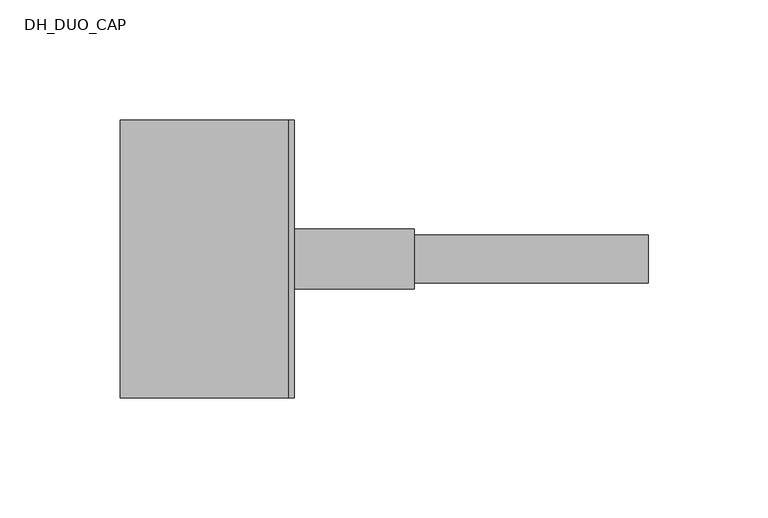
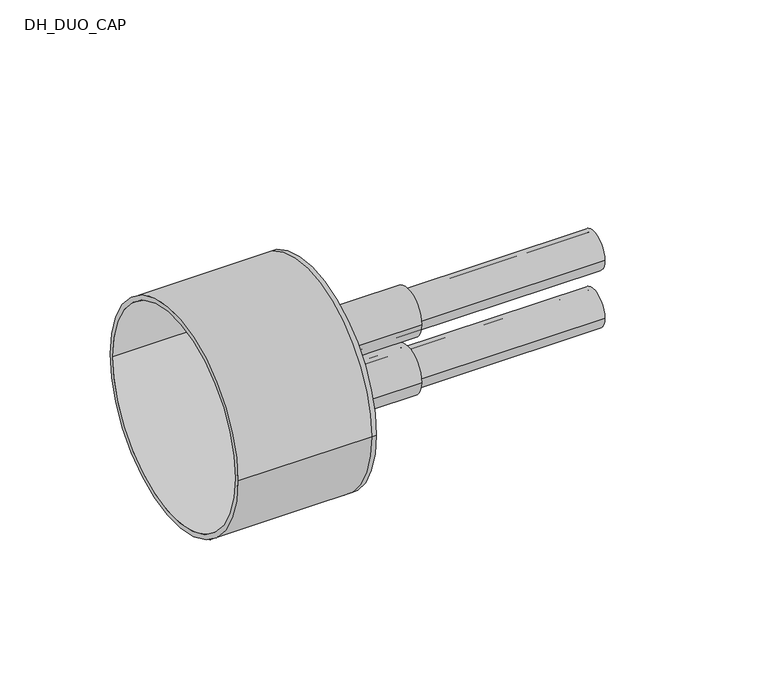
"""IFC4 building model written with IfcOpenShell, lengths in millimetres: pipe fitting geometry, DH_DUO_CAP : RAUTHERMEX DUO + 11 Heating - Rubber Cap."""

from ifc_helpers import new_model, si_unit, point, frame, frame_2d, origin, place, context, project, spatial, polyline, circle_curve, trimmed, segment, composite_curve, outline, extrude, source, transform, mapped, element, save
from ifc_brep_helpers import plane_surface, cylinder_surface, revolved_surface, advanced_brep


def dh_duo_cap_57db8bb2(model_context):
    return source(origin(), model_context, "Body", "SolidModel", [
        extrude(outline(composite_curve([segment(trimmed(circle_curve(frame_2d((0.0, -16.0)), 10.0), [point((-10.0, -16.0))], [point((10.0, -16.0))], False, "CARTESIAN"), True, "CONTINUOUS"), segment(trimmed(circle_curve(frame_2d((0.0, -16.0)), 10.0), [point((10.0, -16.0))], [point((-10.0, -16.0))], False, "CARTESIAN"), True, "CONTINUOUS")], self_intersect=False), holes=[composite_curve([segment(trimmed(circle_curve(frame_2d((0.0, -16.0)), 8.1), [point((-8.1, -16.0))], [point((8.1, -16.0))], True, "CARTESIAN"), True, "CONTINUOUS"), segment(trimmed(circle_curve(frame_2d((0.0, -16.0)), 8.1), [point((8.1, -16.0))], [point((-8.1, -16.0))], True, "CARTESIAN"), True, "CONTINUOUS")], self_intersect=False)]), frame((0.0, 0.0, 0.0), z_axis=(1.0, 0.0, 0.0), x_axis=(0.0, 1.0, 0.0)), (0.0, 0.0, 1.0), 150.0),
        extrude(outline(composite_curve([segment(trimmed(circle_curve(frame_2d((0.0, 16.0)), 10.0), [point((-10.0, 16.0))], [point((10.0, 16.0))], False, "CARTESIAN"), True, "CONTINUOUS"), segment(trimmed(circle_curve(frame_2d((0.0, 16.0)), 10.0), [point((10.0, 16.0))], [point((-10.0, 16.0))], False, "CARTESIAN"), True, "CONTINUOUS")], self_intersect=False), holes=[composite_curve([segment(trimmed(circle_curve(frame_2d((0.0, 16.0)), 8.1), [point((-8.1, 16.0))], [point((8.1, 16.0))], True, "CARTESIAN"), True, "CONTINUOUS"), segment(trimmed(circle_curve(frame_2d((0.0, 16.0)), 8.1), [point((8.1, 16.0))], [point((-8.1, 16.0))], True, "CARTESIAN"), True, "CONTINUOUS")], self_intersect=False)]), frame((0.0, 0.0, 0.0), z_axis=(1.0, 0.0, 0.0), x_axis=(0.0, 1.0, 0.0)), (0.0, 0.0, 1.0), 150.0),
        advanced_brep(
        [(-70.0, -58.0, 0.0), (-70.0, 58.0, 0.0), (-70.0, -55.5, 0.0), (-70.0, 55.5, 0.0), (0.0, -55.5, 0.0), (0.0, 55.5, 0.0), (0.0, -58.0, 0.0), (0.0, 58.0, 0.0), (0.0, 10.0, 16.0), (0.0, -10.0, 16.0), (0.0, 10.0, -16.0), (0.0, -10.0, -16.0), (2.5, -58.0, 0.0), (2.5, 58.0, 0.0), (2.5, -10.0, 16.0), (2.5, 10.0, 16.0), (2.5, -10.0, -16.0), (2.5, 10.0, -16.0)],
        [
            (0, 1, circle_curve(frame((-70.0, 0.0, 0.0), z_axis=(-1.0, 0.0, 0.0), x_axis=(0.0, 1.0, 0.0)), 58.0)),
            (1, 0, circle_curve(frame((-70.0, 0.0, 0.0), z_axis=(-1.0, 0.0, 0.0), x_axis=(0.0, 1.0, 0.0)), 58.0)),
            (2, 3, circle_curve(frame((-70.0, 0.0, 0.0), z_axis=(1.0, 0.0, 0.0), x_axis=(0.0, 1.0, 0.0)), 55.5)),
            (3, 2, circle_curve(frame((-70.0, 0.0, 0.0), z_axis=(1.0, 0.0, 0.0), x_axis=(0.0, 1.0, 0.0)), 55.5)),
            (2, 4),
            (4, 5, circle_curve(frame((0.0, 0.0, 0.0), z_axis=(1.0, 0.0, 0.0), x_axis=(0.0, 1.0, 0.0)), 55.5)),
            (5, 3),
            (5, 4, circle_curve(frame((0.0, 0.0, 0.0), z_axis=(1.0, 0.0, 0.0), x_axis=(0.0, 1.0, 0.0)), 55.5)),
            (0, 6),
            (6, 7, circle_curve(frame((0.0, 0.0, 0.0), z_axis=(-1.0, 0.0, 0.0), x_axis=(0.0, 1.0, 0.0)), 58.0)),
            (7, 1),
            (7, 6, circle_curve(frame((0.0, 0.0, 0.0), z_axis=(-1.0, 0.0, 0.0), x_axis=(0.0, 1.0, 0.0)), 58.0)),
            (8, 9, circle_curve(frame((0.0, 0.0, 16.0), z_axis=(1.0, 0.0, 0.0), x_axis=(0.0, 1.0, 0.0)), 10.0)),
            (9, 8, circle_curve(frame((0.0, 0.0, 16.0), z_axis=(1.0, 0.0, 0.0), x_axis=(0.0, 1.0, 0.0)), 10.0)),
            (10, 11, circle_curve(frame((0.0, 0.0, -16.0), z_axis=(1.0, 0.0, 0.0), x_axis=(0.0, 1.0, 0.0)), 10.0)),
            (11, 10, circle_curve(frame((0.0, 0.0, -16.0), z_axis=(1.0, 0.0, 0.0), x_axis=(0.0, 1.0, 0.0)), 10.0)),
            (12, 13, circle_curve(frame((2.5, 0.0, 0.0), z_axis=(1.0, 0.0, 0.0), x_axis=(0.0, 1.0, 0.0)), 58.0)),
            (13, 12, circle_curve(frame((2.5, 0.0, 0.0), z_axis=(1.0, 0.0, 0.0), x_axis=(0.0, 1.0, 0.0)), 58.0)),
            (14, 15, circle_curve(frame((2.5, 0.0, 16.0), z_axis=(-1.0, 0.0, 0.0), x_axis=(0.0, 1.0, 0.0)), 10.0)),
            (15, 14, circle_curve(frame((2.5, 0.0, 16.0), z_axis=(-1.0, 0.0, 0.0), x_axis=(0.0, 1.0, 0.0)), 10.0)),
            (16, 17, circle_curve(frame((2.5, 0.0, -16.0), z_axis=(-1.0, 0.0, 0.0), x_axis=(0.0, 1.0, 0.0)), 10.0)),
            (17, 16, circle_curve(frame((2.5, 0.0, -16.0), z_axis=(-1.0, 0.0, 0.0), x_axis=(0.0, 1.0, 0.0)), 10.0)),
            (13, 7),
            (6, 12),
            (8, 15),
            (14, 9),
            (10, 17),
            (16, 11),
        ],
        [
            plane_surface(frame((-70.0, 0.0, 0.0), z_axis=(-1.0, 0.0, 0.0), x_axis=(0.0, 0.0, 1.0))),
            revolved_surface(polyline([(0.0, 55.5, 0.0), (-70.0, 55.5, 0.0)]), (-70.0, 0.0, 0.0), (1.0, 0.0, 0.0)),
            cylinder_surface(frame((-70.0, 0.0, 0.0), z_axis=(-1.0, 0.0, 0.0), x_axis=(0.0, 1.0, 0.0)), 58.0),
            plane_surface(frame((0.0, 0.0, 0.0), z_axis=(-1.0, 0.0, 0.0), x_axis=(0.0, 0.0, 1.0))),
            plane_surface(frame((2.5, 0.0, 0.0), z_axis=(1.0, 0.0, 0.0), x_axis=(0.0, 0.0, 1.0))),
            cylinder_surface(frame((0.0, 0.0, 0.0), z_axis=(-1.0, 0.0, 0.0), x_axis=(0.0, 1.0, 0.0)), 58.0),
            revolved_surface(polyline([(0.0, 10.0, 16.0), (2.5, 10.0, 16.0)]), (0.0, 0.0, 16.0), (-1.0, 0.0, 0.0)),
            revolved_surface(polyline([(0.0, 10.0, -16.0), (2.5, 10.0, -16.0)]), (0.0, 0.0, -16.0), (-1.0, 0.0, 0.0)),
        ],
        [
            (0, [[1, 2], [3, 4]]),
            (1, [[-3, 5, 6, 7]]),
            (1, [[-4, -7, 8, -5]]),
            (2, [[-1, 9, 10, 11]]),
            (2, [[-2, -11, 12, -9]]),
            (3, [[-6, -8], [13, 14], [15, 16]]),
            (4, [[17, 18], [19, 20], [21, 22]]),
            (5, [[-18, 23, -10, 24]]),
            (5, [[-17, -24, -12, -23]]),
            (6, [[25, -19, 26, -13]]),
            (6, [[-25, -14, -26, -20]]),
            (7, [[27, -21, 28, -15]]),
            (7, [[-27, -16, -28, -22]]),
        ],
    ),
        extrude(outline(composite_curve([segment(trimmed(circle_curve(frame_2d((0.0, -16.0)), 12.5), [point((-12.5, -16.0))], [point((12.5, -16.0))], False, "CARTESIAN"), True, "CONTINUOUS"), segment(trimmed(circle_curve(frame_2d((0.0, -16.0)), 12.5), [point((12.5, -16.0))], [point((-12.5, -16.0))], False, "CARTESIAN"), True, "CONTINUOUS")], self_intersect=False), holes=[composite_curve([segment(trimmed(circle_curve(frame_2d((0.0, -16.0)), 10.0), [point((-10.0, -16.0))], [point((10.0, -16.0))], True, "CARTESIAN"), True, "CONTINUOUS"), segment(trimmed(circle_curve(frame_2d((0.0, -16.0)), 10.0), [point((10.0, -16.0))], [point((-10.0, -16.0))], True, "CARTESIAN"), True, "CONTINUOUS")], self_intersect=False)]), frame((2.5, 0.0, 0.0), z_axis=(1.0, 0.0, 0.0), x_axis=(0.0, 1.0, 0.0)), (0.0, 0.0, 1.0), 50.0),
        extrude(outline(composite_curve([segment(trimmed(circle_curve(frame_2d((0.0, 16.0)), 12.5), [point((-12.5, 16.0))], [point((12.5, 16.0))], False, "CARTESIAN"), True, "CONTINUOUS"), segment(trimmed(circle_curve(frame_2d((0.0, 16.0)), 12.5), [point((12.5, 16.0))], [point((-12.5, 16.0))], False, "CARTESIAN"), True, "CONTINUOUS")], self_intersect=False), holes=[composite_curve([segment(trimmed(circle_curve(frame_2d((0.0, 16.0)), 10.0), [point((-10.0, 16.0))], [point((10.0, 16.0))], True, "CARTESIAN"), True, "CONTINUOUS"), segment(trimmed(circle_curve(frame_2d((0.0, 16.0)), 10.0), [point((10.0, 16.0))], [point((-10.0, 16.0))], True, "CARTESIAN"), True, "CONTINUOUS")], self_intersect=False)]), frame((2.5, 0.0, 0.0), z_axis=(1.0, 0.0, 0.0), x_axis=(0.0, 1.0, 0.0)), (0.0, 0.0, 1.0), 50.0),
    ])


if __name__ == "__main__":
    model = new_model("IFC4")
    model_context = context("Model", 3, world=origin())
    ifc_project = project(units=[si_unit("LENGTHUNIT", "METRE", prefix="MILLI")], contexts=[model_context])
    site = spatial("IfcSite", under=ifc_project)
    building = spatial("IfcBuilding", under=site)
    placement = place(None, origin())
    dh_duo_cap_shape = dh_duo_cap_57db8bb2(model_context)
    element("IfcPipeFitting", 1, ObjectType="DH_DUO_CAP : RAUTHERMEX DUO + 11 Heating - Rubber Cap", at=placement, inside=building, context=model_context, shape_type="MappedRepresentation", body=[
        mapped(dh_duo_cap_shape, transform((0.0, 0.0, 0.0), x_axis=(1.0, 0.0, 0.0), y_axis=(0.0, 1.0, 0.0), z_axis=(0.0, 0.0, 1.0))),
    ])
    save(model, "model.ifc")
